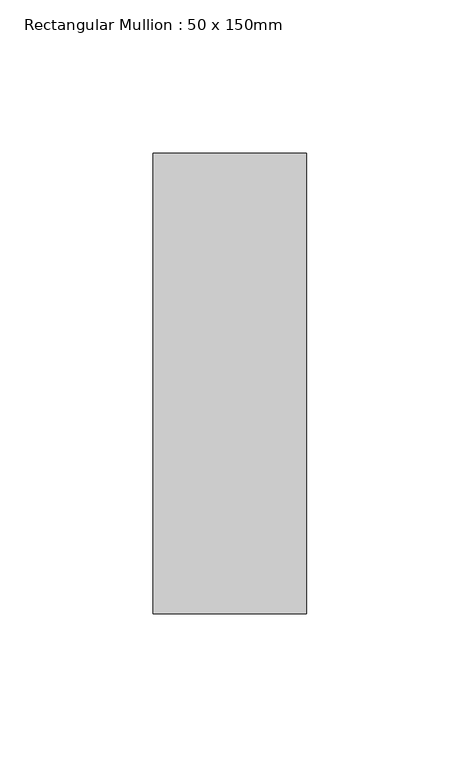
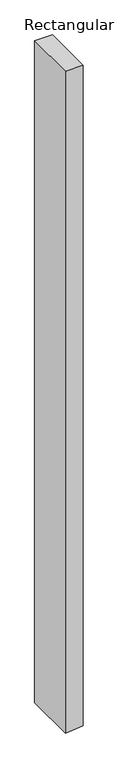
"""IFC4 building model written with IfcOpenShell, lengths in millimetres: member geometry, Rectangular Mullion : 50 x 150mm."""

from ifc_helpers import new_model, si_unit, frame, origin, place, context, project, spatial, polyline, outline, extrude, source, transform, mapped, element, save


def rectangular_mullion_50_x_150mm_820dff38(model_context):
    return source(origin(), model_context, "Body", "SweptSolid", [
        extrude(outline(polyline([(0.0, 25.0), (0.0, -25.0), (-1976.3453464, -25.0), (-1974.3345793, -5.0022633), (-1971.3178597, 25.0), (0.0, 25.0)])), frame((0.0, -75.0, 0.0), z_axis=(0.0, 1.0, 0.0), x_axis=(0.0, 0.0, 1.0)), (0.0, 0.0, 1.0), 150.0),
    ])


if __name__ == "__main__":
    model = new_model("IFC4")
    model_context = context("Model", 3, world=origin())
    ifc_project = project(units=[si_unit("LENGTHUNIT", "METRE", prefix="MILLI")], contexts=[model_context])
    site = spatial("IfcSite", under=ifc_project)
    building = spatial("IfcBuilding", under=site)
    placement = place(None, origin())
    rectangular_mullion_50_x_150mm_shape = rectangular_mullion_50_x_150mm_820dff38(model_context)
    element("IfcMember", 1, ObjectType="Rectangular Mullion : 50 x 150mm", at=placement, inside=building, context=model_context, shape_type="MappedRepresentation", body=[
        mapped(rectangular_mullion_50_x_150mm_shape, transform((0.0, 0.0, 0.0), x_axis=(1.0, 0.0, 0.0), y_axis=(0.0, 1.0, 0.0), z_axis=(0.0, 0.0, 1.0))),
    ])
    save(model, "model.ifc")
